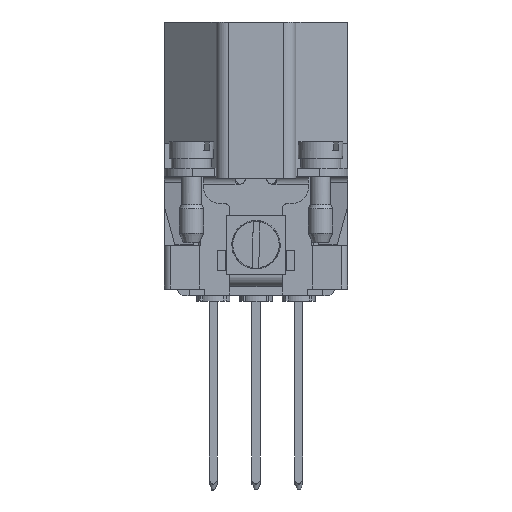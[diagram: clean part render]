
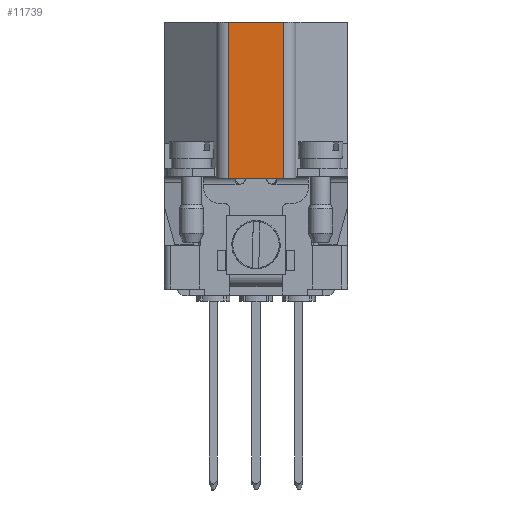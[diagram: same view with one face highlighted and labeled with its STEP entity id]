
A CAD part, left-side view. The second image highlights one B-rep face of the part: STEP entity #11739.
In plain terms, the highlighted planar face has unit normal (-1, 0, 0).
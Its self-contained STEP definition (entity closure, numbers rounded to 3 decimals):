
#11739=ADVANCED_FACE('',(#14198),#13279,.T.);
#13279=PLANE('',#41800);
#14198=FACE_OUTER_BOUND('',#15451,.T.);
#15451=EDGE_LOOP('',(#18229,#18230,#18231,#18232));
#18229=ORIENTED_EDGE('',*,*,#27958,.F.);
#18230=ORIENTED_EDGE('',*,*,#28596,.T.);
#18231=ORIENTED_EDGE('',*,*,#28597,.T.);
#18232=ORIENTED_EDGE('',*,*,#28598,.T.);
#25260=VERTEX_POINT('',#53425);
#25261=VERTEX_POINT('',#53427);
#25868=VERTEX_POINT('',#54922);
#25869=VERTEX_POINT('',#54924);
#27958=EDGE_CURVE('',#25260,#25261,#33695,.T.);
#28596=EDGE_CURVE('',#25260,#25868,#34135,.T.);
#28597=EDGE_CURVE('',#25868,#25869,#34136,.T.);
#28598=EDGE_CURVE('',#25869,#25261,#34137,.T.);
#33695=LINE('',#53426,#36480);
#34135=LINE('',#54921,#36920);
#34136=LINE('',#54923,#36921);
#34137=LINE('',#54925,#36922);
#36480=VECTOR('',#44318,1.);
#36920=VECTOR('',#45196,1.);
#36921=VECTOR('',#45197,1.);
#36922=VECTOR('',#45198,1.);
#41800=AXIS2_PLACEMENT_3D('',#54926,#45199,#45200);
#44318=DIRECTION('',(0.,-1.,0.));
#45196=DIRECTION('',(0.,0.,-1.));
#45197=DIRECTION('',(0.,-1.,0.));
#45198=DIRECTION('',(0.,0.,1.));
#45199=DIRECTION('',(-1.,0.,0.));
#45200=DIRECTION('',(0.,0.,1.));
#53425=CARTESIAN_POINT('',(-35.95,3.45,19.1));
#53426=CARTESIAN_POINT('',(-35.95,4.95,19.1));
#53427=CARTESIAN_POINT('',(-35.95,-3.45,19.1));
#54921=CARTESIAN_POINT('',(-35.95,3.45,-14.));
#54922=CARTESIAN_POINT('',(-35.95,3.45,-0.25));
#54923=CARTESIAN_POINT('',(-35.95,4.95,-0.25));
#54924=CARTESIAN_POINT('',(-35.95,-3.45,-0.25));
#54925=CARTESIAN_POINT('',(-35.95,-3.45,-14.));
#54926=CARTESIAN_POINT('',(-35.95,4.95,-14.));
